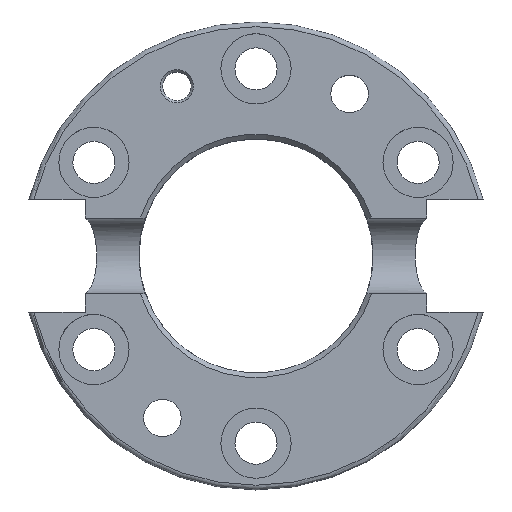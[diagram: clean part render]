
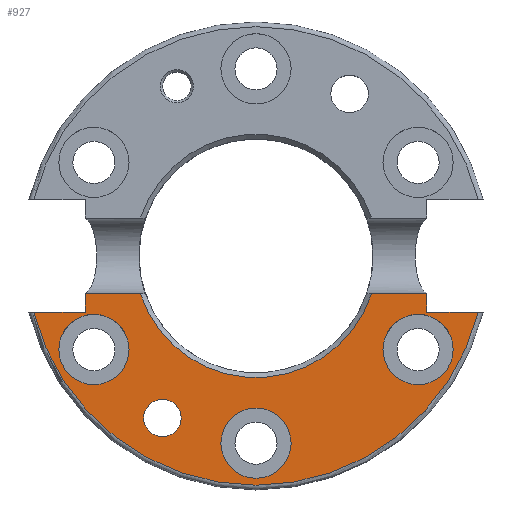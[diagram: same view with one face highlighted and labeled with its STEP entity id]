
A CAD part, top view. The second image highlights one B-rep face of the part: STEP entity #927.
In plain terms, the highlighted planar face has unit normal (0, 0, 1).
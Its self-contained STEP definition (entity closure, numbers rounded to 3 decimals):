
#57=FACE_BOUND('',#201,.T.);
#58=FACE_BOUND('',#202,.T.);
#59=FACE_BOUND('',#203,.T.);
#60=FACE_BOUND('',#204,.T.);
#73=PLANE('',#1053);
#131=FACE_OUTER_BOUND('',#200,.T.);
#200=EDGE_LOOP('',(#795,#796,#797,#798,#799,#800,#801,#802));
#201=EDGE_LOOP('',(#803,#804));
#202=EDGE_LOOP('',(#805,#806));
#203=EDGE_LOOP('',(#807,#808));
#204=EDGE_LOOP('',(#809,#810));
#250=LINE('',#1567,#303);
#251=LINE('',#1591,#304);
#256=LINE('',#1621,#309);
#263=LINE('',#1635,#316);
#264=LINE('',#1637,#317);
#265=LINE('',#1640,#318);
#303=VECTOR('',#1272,10.);
#304=VECTOR('',#1275,10.);
#309=VECTOR('',#1290,10.);
#316=VECTOR('',#1305,10.);
#317=VECTOR('',#1306,10.);
#318=VECTOR('',#1309,10.);
#359=CIRCLE('',#1006,7.5);
#360=CIRCLE('',#1007,7.5);
#364=CIRCLE('',#1014,7.5);
#365=CIRCLE('',#1015,7.5);
#369=CIRCLE('',#1022,7.5);
#370=CIRCLE('',#1023,7.5);
#377=CIRCLE('',#1038,4.);
#378=CIRCLE('',#1039,4.);
#383=CIRCLE('',#1054,26.);
#384=CIRCLE('',#1055,49.);
#436=VERTEX_POINT('',#1468);
#437=VERTEX_POINT('',#1469);
#441=VERTEX_POINT('',#1483);
#442=VERTEX_POINT('',#1484);
#446=VERTEX_POINT('',#1498);
#447=VERTEX_POINT('',#1499);
#454=VERTEX_POINT('',#1528);
#455=VERTEX_POINT('',#1529);
#460=VERTEX_POINT('',#1564);
#461=VERTEX_POINT('',#1566);
#464=VERTEX_POINT('',#1585);
#465=VERTEX_POINT('',#1590);
#471=VERTEX_POINT('',#1620);
#474=VERTEX_POINT('',#1634);
#475=VERTEX_POINT('',#1636);
#476=VERTEX_POINT('',#1638);
#535=EDGE_CURVE('',#436,#437,#359,.T.);
#536=EDGE_CURVE('',#437,#436,#360,.T.);
#542=EDGE_CURVE('',#441,#442,#364,.T.);
#543=EDGE_CURVE('',#442,#441,#365,.T.);
#549=EDGE_CURVE('',#446,#447,#369,.T.);
#550=EDGE_CURVE('',#447,#446,#370,.T.);
#563=EDGE_CURVE('',#454,#455,#377,.T.);
#564=EDGE_CURVE('',#455,#454,#378,.T.);
#572=EDGE_CURVE('',#461,#460,#250,.T.);
#576=EDGE_CURVE('',#465,#464,#251,.T.);
#586=EDGE_CURVE('',#465,#471,#256,.T.);
#593=EDGE_CURVE('',#461,#464,#383,.T.);
#594=EDGE_CURVE('',#474,#460,#263,.T.);
#595=EDGE_CURVE('',#474,#475,#264,.T.);
#596=EDGE_CURVE('',#476,#475,#384,.T.);
#597=EDGE_CURVE('',#476,#471,#265,.T.);
#795=ORIENTED_EDGE('',*,*,#576,.T.);
#796=ORIENTED_EDGE('',*,*,#593,.F.);
#797=ORIENTED_EDGE('',*,*,#572,.T.);
#798=ORIENTED_EDGE('',*,*,#594,.F.);
#799=ORIENTED_EDGE('',*,*,#595,.T.);
#800=ORIENTED_EDGE('',*,*,#596,.F.);
#801=ORIENTED_EDGE('',*,*,#597,.T.);
#802=ORIENTED_EDGE('',*,*,#586,.F.);
#803=ORIENTED_EDGE('',*,*,#535,.T.);
#804=ORIENTED_EDGE('',*,*,#536,.T.);
#805=ORIENTED_EDGE('',*,*,#542,.T.);
#806=ORIENTED_EDGE('',*,*,#543,.T.);
#807=ORIENTED_EDGE('',*,*,#549,.T.);
#808=ORIENTED_EDGE('',*,*,#550,.T.);
#809=ORIENTED_EDGE('',*,*,#563,.T.);
#810=ORIENTED_EDGE('',*,*,#564,.T.);
#927=ADVANCED_FACE('',(#131,#57,#58,#59,#60),#73,.F.);
#1006=AXIS2_PLACEMENT_3D('',#1470,#1182,#1183);
#1007=AXIS2_PLACEMENT_3D('',#1471,#1184,#1185);
#1014=AXIS2_PLACEMENT_3D('',#1485,#1200,#1201);
#1015=AXIS2_PLACEMENT_3D('',#1486,#1202,#1203);
#1022=AXIS2_PLACEMENT_3D('',#1500,#1218,#1219);
#1023=AXIS2_PLACEMENT_3D('',#1501,#1220,#1221);
#1038=AXIS2_PLACEMENT_3D('',#1530,#1256,#1257);
#1039=AXIS2_PLACEMENT_3D('',#1531,#1258,#1259);
#1053=AXIS2_PLACEMENT_3D('',#1632,#1301,#1302);
#1054=AXIS2_PLACEMENT_3D('',#1633,#1303,#1304);
#1055=AXIS2_PLACEMENT_3D('',#1639,#1307,#1308);
#1182=DIRECTION('center_axis',(0.,0.,-1.));
#1183=DIRECTION('ref_axis',(1.,0.,0.));
#1184=DIRECTION('center_axis',(0.,0.,-1.));
#1185=DIRECTION('ref_axis',(1.,0.,0.));
#1200=DIRECTION('center_axis',(0.,0.,-1.));
#1201=DIRECTION('ref_axis',(1.,0.,0.));
#1202=DIRECTION('center_axis',(0.,0.,-1.));
#1203=DIRECTION('ref_axis',(1.,0.,0.));
#1218=DIRECTION('center_axis',(0.,0.,-1.));
#1219=DIRECTION('ref_axis',(1.,0.,0.));
#1220=DIRECTION('center_axis',(0.,0.,-1.));
#1221=DIRECTION('ref_axis',(1.,0.,0.));
#1256=DIRECTION('center_axis',(0.,0.,-1.));
#1257=DIRECTION('ref_axis',(1.,0.,0.));
#1258=DIRECTION('center_axis',(0.,0.,-1.));
#1259=DIRECTION('ref_axis',(1.,0.,0.));
#1272=DIRECTION('',(-1.,0.,0.));
#1275=DIRECTION('',(-1.,0.,0.));
#1290=DIRECTION('',(0.,-1.,0.));
#1301=DIRECTION('center_axis',(0.,0.,-1.));
#1302=DIRECTION('ref_axis',(-1.,0.,0.));
#1303=DIRECTION('center_axis',(0.,0.,1.));
#1304=DIRECTION('ref_axis',(-1.,0.,0.));
#1305=DIRECTION('',(0.,1.,0.));
#1306=DIRECTION('',(-1.,0.,0.));
#1307=DIRECTION('center_axis',(0.,0.,-1.));
#1308=DIRECTION('ref_axis',(-1.,0.,0.));
#1309=DIRECTION('',(-1.,0.,0.));
#1468=CARTESIAN_POINT('',(42.141,-20.,15.));
#1469=CARTESIAN_POINT('',(27.141,-20.,15.));
#1470=CARTESIAN_POINT('Origin',(34.641,-20.,15.));
#1471=CARTESIAN_POINT('Origin',(34.641,-20.,15.));
#1483=CARTESIAN_POINT('',(7.5,-40.,15.));
#1484=CARTESIAN_POINT('',(-7.5,-40.,15.));
#1485=CARTESIAN_POINT('Origin',(0.,-40.,15.));
#1486=CARTESIAN_POINT('Origin',(0.,-40.,15.));
#1498=CARTESIAN_POINT('',(-27.141,-20.,15.));
#1499=CARTESIAN_POINT('',(-42.141,-20.,15.));
#1500=CARTESIAN_POINT('Origin',(-34.641,-20.,15.));
#1501=CARTESIAN_POINT('Origin',(-34.641,-20.,15.));
#1528=CARTESIAN_POINT('',(-16.,-34.641,15.));
#1529=CARTESIAN_POINT('',(-24.,-34.641,15.));
#1530=CARTESIAN_POINT('Origin',(-20.,-34.641,15.));
#1531=CARTESIAN_POINT('Origin',(-20.,-34.641,15.));
#1564=CARTESIAN_POINT('',(-36.5,-8.1,15.));
#1566=CARTESIAN_POINT('',(-24.706,-8.1,15.));
#1567=CARTESIAN_POINT('',(0.,-8.1,15.));
#1585=CARTESIAN_POINT('',(24.706,-8.1,15.));
#1590=CARTESIAN_POINT('',(36.5,-8.1,15.));
#1591=CARTESIAN_POINT('',(0.,-8.1,15.));
#1620=CARTESIAN_POINT('',(36.5,-12.,15.));
#1621=CARTESIAN_POINT('',(36.5,0.,15.));
#1632=CARTESIAN_POINT('Origin',(0.,0.,15.));
#1633=CARTESIAN_POINT('Origin',(0.,0.,15.));
#1634=CARTESIAN_POINT('',(-36.5,-12.,15.));
#1635=CARTESIAN_POINT('',(-36.5,0.,15.));
#1636=CARTESIAN_POINT('',(-47.508,-12.,15.));
#1637=CARTESIAN_POINT('',(-23.381,-12.,15.));
#1638=CARTESIAN_POINT('',(47.508,-12.,15.));
#1639=CARTESIAN_POINT('Origin',(0.,0.,15.));
#1640=CARTESIAN_POINT('',(23.396,-12.,15.));
